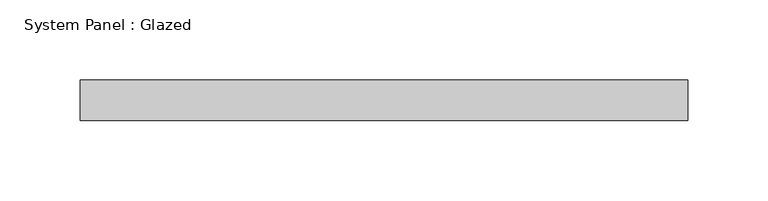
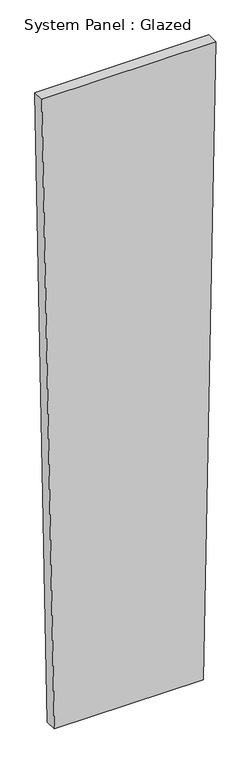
"""IFC4 building model written with IfcOpenShell, lengths in millimetres: plate geometry, System Panel : Glazed."""

from ifc_helpers import new_model, si_unit, frame, origin, place, context, project, spatial, polyline, outline, extrude, source, transform, mapped, element, save


def system_panel_glazed_24f176ce(model_context):
    return source(origin(), model_context, "Body", "SweptSolid", [
        extrude(outline(polyline([(0.0, -162.2283374), (0.0, 162.2283374), (1460.2321911, 189.6071245), (1460.2321911, -189.6071245), (0.0, -162.2283374)])), frame((0.0, -44.45, 0.0), z_axis=(0.0, 1.0, 0.0), x_axis=(0.0, 0.0, 1.0)), (0.0, 0.0, 1.0), 25.4),
    ])


if __name__ == "__main__":
    model = new_model("IFC4")
    model_context = context("Model", 3, world=origin())
    ifc_project = project(units=[si_unit("LENGTHUNIT", "METRE", prefix="MILLI")], contexts=[model_context])
    site = spatial("IfcSite", under=ifc_project)
    building = spatial("IfcBuilding", under=site)
    placement = place(None, origin())
    system_panel_glazed_shape = system_panel_glazed_24f176ce(model_context)
    element("IfcPlate", 1, ObjectType="System Panel : Glazed", at=placement, inside=building, context=model_context, shape_type="MappedRepresentation", body=[
        mapped(system_panel_glazed_shape, transform((0.0, 0.0, 0.0), x_axis=(1.0, 0.0, 0.0), y_axis=(0.0, 1.0, 0.0), z_axis=(0.0, 0.0, 1.0))),
    ])
    save(model, "model.ifc")
